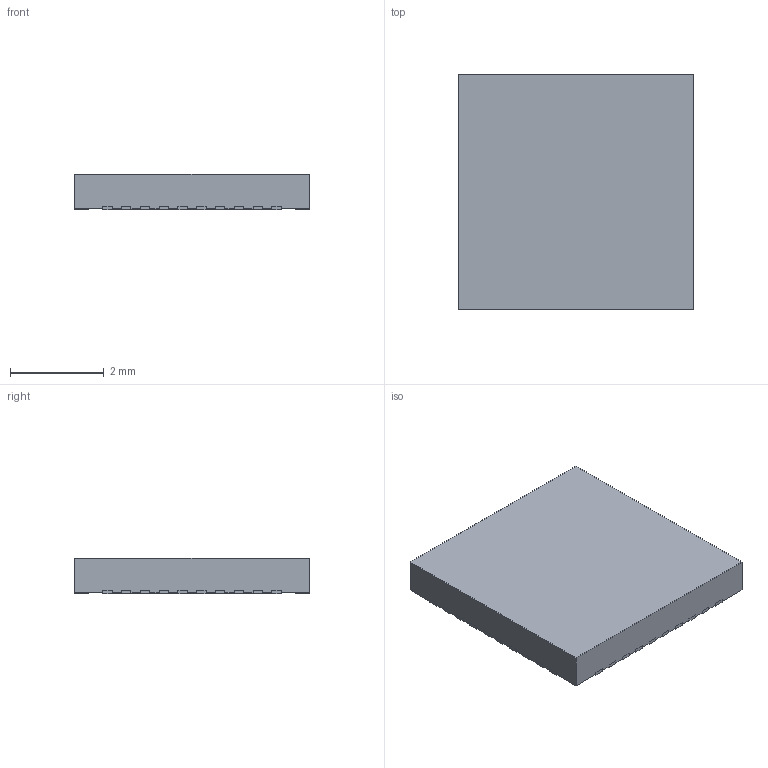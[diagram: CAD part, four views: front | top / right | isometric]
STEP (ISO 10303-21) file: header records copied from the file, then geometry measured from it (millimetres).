
FILE_DESCRIPTION(('Open CASCADE Model'),'2;1');
FILE_NAME('ESS_ES9219Q_WQFN40_5x5','2026-09-04T00:01:44',('Author'),( 'Open CASCADE'),'Open CASCADE STEP processor 7.9','build123d', 'Unknown');
FILE_SCHEMA(('AUTOMOTIVE_DESIGN { 1 0 10303 214 1 1 1 1 }'));
Length unit declared in the file: millimetre
Products named in the file (4): ESS_ES9219Q_WQFN40_5x5; body; leads_40x; thermal_pad
Assembly tree (3 placements, depth 2):
  ESS_ES9219Q_WQFN40_5x5
    body
    leads_40x
    thermal_pad
Bounding box: 5 x 5 x 0.75 mm (x, y, z)
Volume: 18.6 mm3; surface area: 103.9 mm2
Topology: 42 solids, 42 shells, 417 faces, 996 edges, 664 vertices
Faces by surface type: plane 417
Entity records: 11792 total; most frequent: CARTESIAN_POINT 2081, ORIENTED_EDGE 1992, DIRECTION 1838, EDGE_CURVE 996, LINE 996, VECTOR 996, VERTEX_POINT 664, AXIS2_PLACEMENT_3D 421
